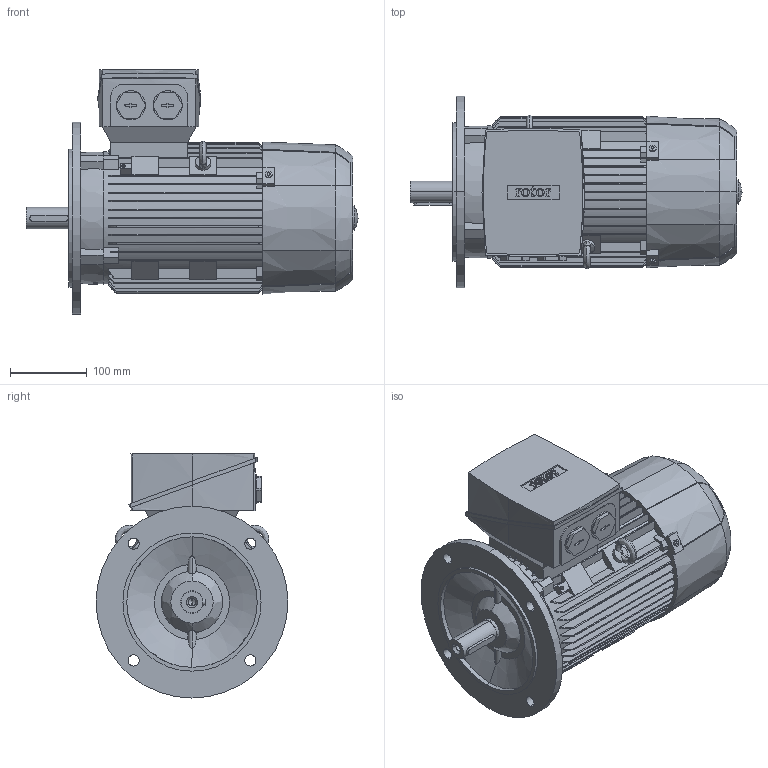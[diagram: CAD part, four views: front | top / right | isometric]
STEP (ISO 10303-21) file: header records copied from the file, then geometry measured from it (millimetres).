
FILE_DESCRIPTION (( 'STEP AP203' ), '1' );
FILE_NAME ('6RN100L06E26 IM3041.STEP', '2017-01-03T14:59:45', ( 'rotor' ), ( 'Hewlett-Packard Company' ), 'SwSTEP 2.0', 'SolidWorks 2015', '' );
FILE_SCHEMA (( 'CONFIG_CONTROL_DESIGN' ));
Length unit declared in the file: millimetre
Products named in the file (1): 6RN100L06E26 IM3041
Bounding box: 432.5 x 250 x 318 mm (x, y, z)
Volume: 11499755.9 mm3; surface area: 620203.4 mm2
Topology: 7 solids, 7 shells, 811 faces, 2219 edges, 1460 vertices
Faces by surface type: plane 475, bspline 159, cylinder 147, cone 30
Entity records: 30390 total; most frequent: CARTESIAN_POINT 10971, ORIENTED_EDGE 4430, DIRECTION 3445, EDGE_CURVE 2215, VERTEX_POINT 1460, VECTOR 1239, LINE 1239, AXIS2_PLACEMENT_3D 1103
